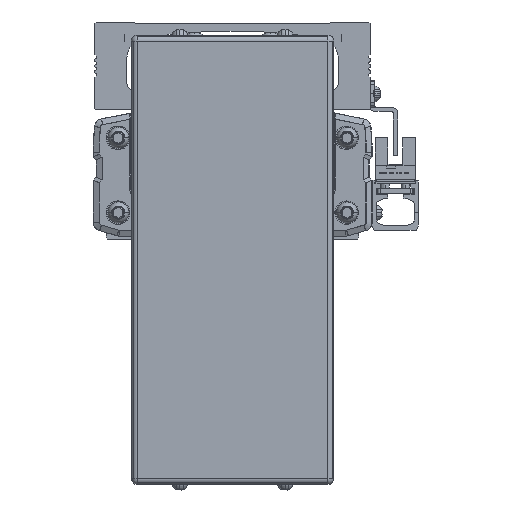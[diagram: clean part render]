
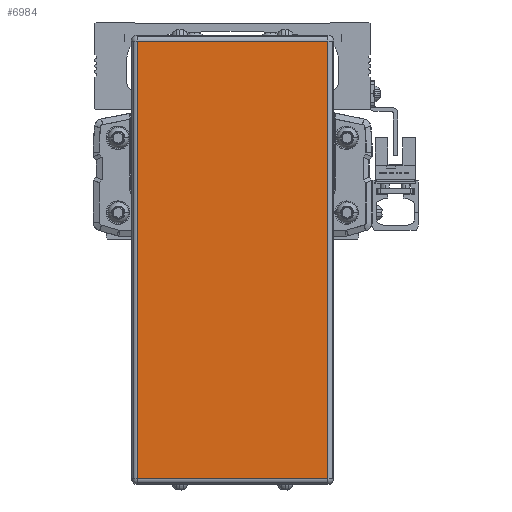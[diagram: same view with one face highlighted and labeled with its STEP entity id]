
A CAD part, front view. The second image highlights one B-rep face of the part: STEP entity #6984.
In plain terms, the highlighted planar face has unit normal (0, -1, 0).
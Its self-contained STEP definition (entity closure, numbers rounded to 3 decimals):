
#6984=ADVANCED_FACE('',(#14588),#14589,.T.);
#14588=FACE_OUTER_BOUND('',#24131,.T.);
#14589=PLANE('',#24132);
#24131=EDGE_LOOP('',(#44664,#44665,#44666,#44667));
#24132=AXIS2_PLACEMENT_3D('',#44668,#44669,#44670);
#44664=ORIENTED_EDGE('',*,*,#56388,.F.);
#44665=ORIENTED_EDGE('',*,*,#50532,.F.);
#44666=ORIENTED_EDGE('',*,*,#58396,.F.);
#44667=ORIENTED_EDGE('',*,*,#52816,.F.);
#44668=CARTESIAN_POINT('',(0.,-289.778,-50.1));
#44669=DIRECTION('',(0.0,-1.0,0.));
#44670=DIRECTION('',(1.0,0.0,0.0));
#50532=EDGE_CURVE('',#60273,#60275,#60276,.T.);
#52816=EDGE_CURVE('',#61179,#64209,#64210,.T.);
#56388=EDGE_CURVE('',#60275,#61179,#69598,.T.);
#58396=EDGE_CURVE('',#64209,#60273,#72053,.T.);
#60273=VERTEX_POINT('',#74485);
#60275=VERTEX_POINT('',#74487);
#60276=LINE('',#74488,#74489);
#61179=VERTEX_POINT('',#75962);
#64209=VERTEX_POINT('',#80430);
#64210=LINE('',#80431,#80432);
#69598=LINE('',#88254,#88255);
#72053=LINE('',#91857,#91858);
#74485=CARTESIAN_POINT('',(-32.5,-289.778,24.5));
#74487=CARTESIAN_POINT('',(32.5,-289.778,24.5));
#74488=CARTESIAN_POINT('',(0.,-289.778,24.5));
#74489=VECTOR('',#93799,10.0);
#75962=CARTESIAN_POINT('',(32.5,-289.778,-124.7));
#80430=CARTESIAN_POINT('',(-32.5,-289.778,-124.7));
#80431=CARTESIAN_POINT('',(0.,-289.778,-124.7));
#80432=VECTOR('',#96761,10.0);
#88254=CARTESIAN_POINT('',(32.5,-289.778,-50.1));
#88255=VECTOR('',#101044,10.0);
#91857=CARTESIAN_POINT('',(-32.5,-289.778,-50.1));
#91858=VECTOR('',#103079,10.0);
#93799=DIRECTION('',(1.0,0.0,0.0));
#96761=DIRECTION('',(-1.0,0.0,0.0));
#101044=DIRECTION('',(0.0,0.,-1.0));
#103079=DIRECTION('',(0.0,0.,1.0));
